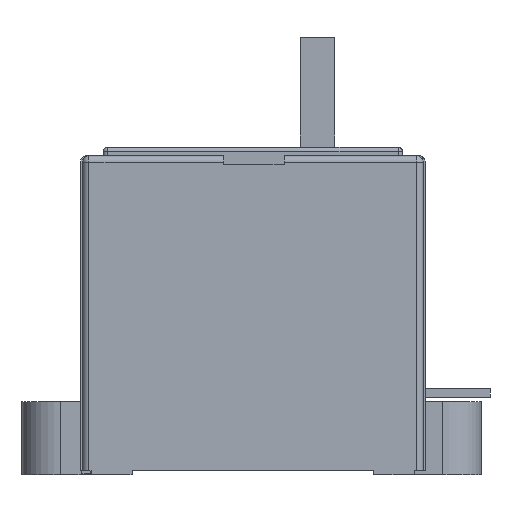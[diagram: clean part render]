
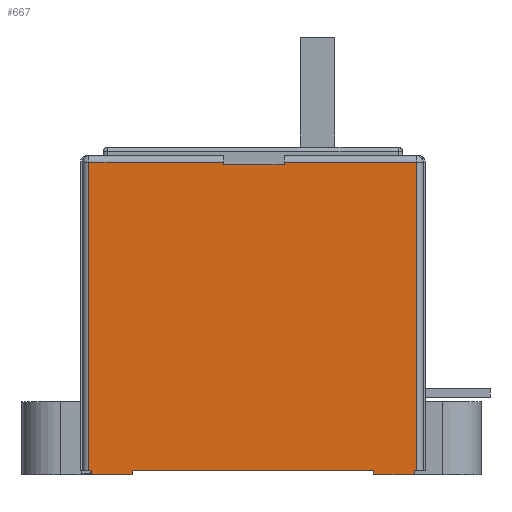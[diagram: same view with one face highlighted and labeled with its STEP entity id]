
A CAD part, left-side view. The second image highlights one B-rep face of the part: STEP entity #667.
In plain terms, the highlighted planar face has unit normal (-1, 0, 0).
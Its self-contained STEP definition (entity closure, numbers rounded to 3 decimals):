
#228=PLANE('',#7349);
#667=ADVANCED_FACE('',(#1136),#228,.F.);
#1136=FACE_OUTER_BOUND('',#1543,.T.);
#1543=EDGE_LOOP('',(#4470,#4471,#4472,#4473,#4474,#4475,#4476,#4477,#4478,
#4479,#4480,#4481,#4482,#4483,#4484,#4485));
#1863=LINE('',#10104,#2585);
#1912=LINE('',#10221,#2634);
#1914=LINE('',#10227,#2636);
#1993=LINE('',#10576,#2715);
#2010=LINE('',#10663,#2732);
#2054=LINE('',#10777,#2776);
#2059=LINE('',#10789,#2781);
#2061=LINE('',#10792,#2783);
#2067=LINE('',#10805,#2789);
#2238=LINE('',#11155,#2960);
#2244=LINE('',#11166,#2966);
#2245=LINE('',#11170,#2967);
#2246=LINE('',#11172,#2968);
#2247=LINE('',#11174,#2969);
#2248=LINE('',#11175,#2970);
#2249=LINE('',#11176,#2971);
#2585=VECTOR('',#8141,1.);
#2634=VECTOR('',#8226,1.);
#2636=VECTOR('',#8232,1.);
#2715=VECTOR('',#8549,1.);
#2732=VECTOR('',#8666,1.);
#2776=VECTOR('',#8784,1.);
#2781=VECTOR('',#8791,1.);
#2783=VECTOR('',#8795,1.);
#2789=VECTOR('',#8803,1.);
#2960=VECTOR('',#9104,1.);
#2966=VECTOR('',#9116,1.);
#2967=VECTOR('',#9121,1.);
#2968=VECTOR('',#9122,1.);
#2969=VECTOR('',#9123,1.);
#2970=VECTOR('',#9124,1.);
#2971=VECTOR('',#9125,1.);
#4470=ORIENTED_EDGE('',*,*,#6460,.F.);
#4471=ORIENTED_EDGE('',*,*,#6201,.T.);
#4472=ORIENTED_EDGE('',*,*,#6003,.T.);
#4473=ORIENTED_EDGE('',*,*,#5947,.F.);
#4474=ORIENTED_EDGE('',*,*,#6006,.T.);
#4475=ORIENTED_EDGE('',*,*,#6158,.T.);
#4476=ORIENTED_EDGE('',*,*,#6462,.T.);
#4477=ORIENTED_EDGE('',*,*,#6463,.T.);
#4478=ORIENTED_EDGE('',*,*,#6464,.F.);
#4479=ORIENTED_EDGE('',*,*,#6257,.F.);
#4480=ORIENTED_EDGE('',*,*,#6262,.T.);
#4481=ORIENTED_EDGE('',*,*,#6465,.T.);
#4482=ORIENTED_EDGE('',*,*,#6270,.F.);
#4483=ORIENTED_EDGE('',*,*,#6264,.F.);
#4484=ORIENTED_EDGE('',*,*,#6454,.T.);
#4485=ORIENTED_EDGE('',*,*,#6466,.T.);
#5233=VERTEX_POINT('',#10103);
#5234=VERTEX_POINT('',#10105);
#5280=VERTEX_POINT('',#10222);
#5282=VERTEX_POINT('',#10228);
#5389=VERTEX_POINT('',#10571);
#5390=VERTEX_POINT('',#10575);
#5444=VERTEX_POINT('',#10778);
#5445=VERTEX_POINT('',#10779);
#5449=VERTEX_POINT('',#10788);
#5450=VERTEX_POINT('',#10793);
#5451=VERTEX_POINT('',#10794);
#5454=VERTEX_POINT('',#10802);
#5569=VERTEX_POINT('',#11154);
#5572=VERTEX_POINT('',#11167);
#5573=VERTEX_POINT('',#11171);
#5574=VERTEX_POINT('',#11173);
#5947=EDGE_CURVE('',#5233,#5234,#1863,.T.);
#6003=EDGE_CURVE('',#5280,#5234,#1912,.T.);
#6006=EDGE_CURVE('',#5233,#5282,#1914,.T.);
#6158=EDGE_CURVE('',#5282,#5390,#1993,.T.);
#6201=EDGE_CURVE('',#5389,#5280,#2010,.T.);
#6257=EDGE_CURVE('',#5444,#5445,#2054,.T.);
#6262=EDGE_CURVE('',#5444,#5449,#2059,.T.);
#6264=EDGE_CURVE('',#5450,#5451,#2061,.T.);
#6270=EDGE_CURVE('',#5451,#5454,#2067,.T.);
#6454=EDGE_CURVE('',#5450,#5569,#2238,.T.);
#6460=EDGE_CURVE('',#5389,#5572,#2244,.T.);
#6462=EDGE_CURVE('',#5390,#5573,#2245,.T.);
#6463=EDGE_CURVE('',#5573,#5574,#2246,.T.);
#6464=EDGE_CURVE('',#5445,#5574,#2247,.T.);
#6465=EDGE_CURVE('',#5449,#5454,#2248,.T.);
#6466=EDGE_CURVE('',#5569,#5572,#2249,.T.);
#7349=AXIS2_PLACEMENT_3D('',#11177,#9126,#9127);
#8141=DIRECTION('',(0.,-1.,0.));
#8226=DIRECTION('',(0.,0.,-1.));
#8232=DIRECTION('',(0.,0.,1.));
#8549=DIRECTION('',(0.,1.,0.));
#8666=DIRECTION('',(0.,1.,0.));
#8784=DIRECTION('',(0.,1.,0.));
#8791=DIRECTION('',(0.,0.,1.));
#8795=DIRECTION('',(0.,1.,0.));
#8803=DIRECTION('',(0.,0.,1.));
#9104=DIRECTION('',(0.,0.,1.));
#9116=DIRECTION('',(0.,0.,-1.));
#9121=DIRECTION('',(0.,0.,-1.));
#9122=DIRECTION('',(0.,-1.,0.));
#9123=DIRECTION('',(0.,0.,1.));
#9124=DIRECTION('',(0.,-1.,0.));
#9125=DIRECTION('',(0.,-1.,0.));
#9126=DIRECTION('',(1.,0.,0.));
#9127=DIRECTION('',(0.,0.,-1.));
#10103=CARTESIAN_POINT('',(-66.,6.75,71.9));
#10104=CARTESIAN_POINT('',(-66.,37.5,71.9));
#10105=CARTESIAN_POINT('',(-66.,-7.25,71.9));
#10221=CARTESIAN_POINT('',(-66.,-7.25,74.));
#10222=CARTESIAN_POINT('',(-66.,-7.25,72.5));
#10227=CARTESIAN_POINT('',(-66.,6.75,74.));
#10228=CARTESIAN_POINT('',(-66.,6.75,72.5));
#10571=CARTESIAN_POINT('',(-66.,-38.,72.5));
#10575=CARTESIAN_POINT('',(-66.,38.,72.5));
#10576=CARTESIAN_POINT('',(-66.,38.,72.5));
#10663=CARTESIAN_POINT('',(-66.,38.,72.5));
#10777=CARTESIAN_POINT('',(-66.,28.,0.));
#10778=CARTESIAN_POINT('',(-66.,28.,0.));
#10779=CARTESIAN_POINT('',(-66.,37.5,0.));
#10788=CARTESIAN_POINT('',(-66.,28.,1.));
#10789=CARTESIAN_POINT('',(-66.,28.,-1.));
#10792=CARTESIAN_POINT('',(-66.,-37.5,0.));
#10793=CARTESIAN_POINT('',(-66.,-37.5,0.));
#10794=CARTESIAN_POINT('',(-66.,-28.,0.));
#10802=CARTESIAN_POINT('',(-66.,-28.,1.));
#10805=CARTESIAN_POINT('',(-66.,-28.,-1.));
#11154=CARTESIAN_POINT('',(-66.,-37.5,1.));
#11155=CARTESIAN_POINT('',(-66.,-37.5,-1.));
#11166=CARTESIAN_POINT('',(-66.,-38.,74.));
#11167=CARTESIAN_POINT('',(-66.,-38.,1.));
#11170=CARTESIAN_POINT('',(-66.,38.,74.));
#11171=CARTESIAN_POINT('',(-66.,38.,1.));
#11172=CARTESIAN_POINT('',(-66.,-37.5,1.));
#11173=CARTESIAN_POINT('',(-66.,37.5,1.));
#11174=CARTESIAN_POINT('',(-66.,37.5,-1.));
#11175=CARTESIAN_POINT('',(-66.,-37.5,1.));
#11176=CARTESIAN_POINT('',(-66.,-37.5,1.));
#11177=CARTESIAN_POINT('',(-66.,-37.5,74.));
